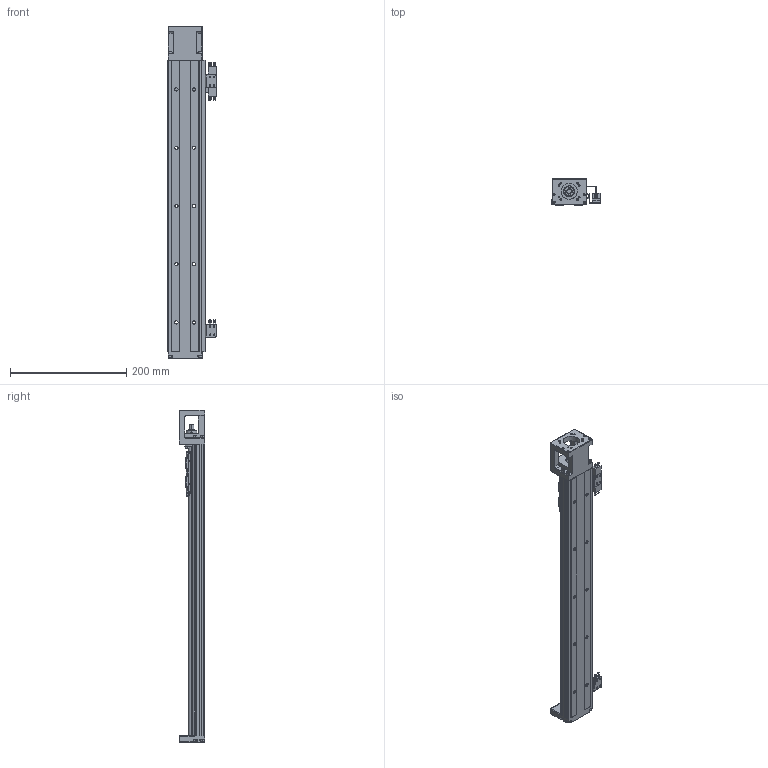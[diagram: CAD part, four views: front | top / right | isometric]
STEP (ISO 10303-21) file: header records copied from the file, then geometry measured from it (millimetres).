
FILE_DESCRIPTION (( 'STEP AP214' ), '1' );
FILE_NAME ('SFKK60-500A1-F0.STEP', '2023-02-17T01:38:33', ( '微软用户' ), ( '微软中国' ), 'SwSTEP 2.0', 'SolidWorks 2018', '' );
FILE_SCHEMA (( 'AUTOMOTIVE_DESIGN' ));
Length unit declared in the file: millimetre
Products named in the file (9): 蚐郲; SFKK60-A1; SFKK60-F0_500; 开关固定座：KK-674S2-F; SFKK60-500A1-F0; 不带盖挡光片：KK-60-S2-D2; SX674嫖萇羲壽; 极限轨道与开关固定座组合_500; SFKK60-LR 憤癹寢耋_500
Assembly tree (11 placements, depth 3):
  SFKK60-500A1-F0
    SFKK60-F0_500
    SFKK60-A1
    蚐郲
    极限轨道与开关固定座组合_500
      SFKK60-LR 憤癹寢耋_500
      开关固定座：KK-674S2-F  x2
    SX674嫖萇羲壽  x3
    不带盖挡光片：KK-60-S2-D2
Bounding box: 83.4 x 44.5 x 570 mm (x, y, z)
Volume: 551442.8 mm3; surface area: 203430.3 mm2
Topology: 27 solids, 27 shells, 1542 faces, 4043 edges, 2575 vertices
Faces by surface type: plane 773, cylinder 586, cone 112, torus 57, sphere 10, bspline 4
Entity records: 57258 total; most frequent: CARTESIAN_POINT 10676, DIRECTION 7650, ORIENTED_EDGE 7366, EDGE_CURVE 3683, AXIS2_PLACEMENT_3D 2691, VERTEX_POINT 2377, LINE 2268, VECTOR 2268
